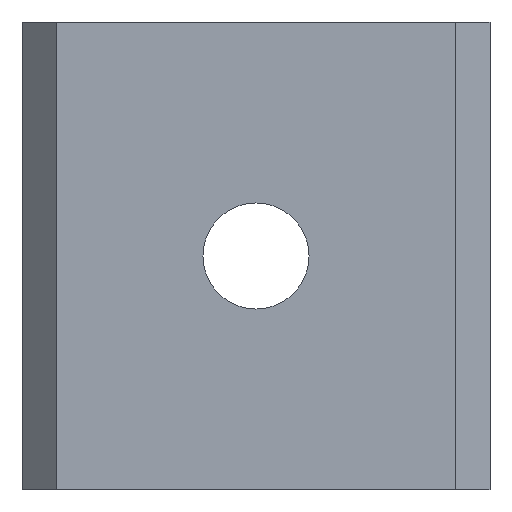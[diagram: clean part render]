
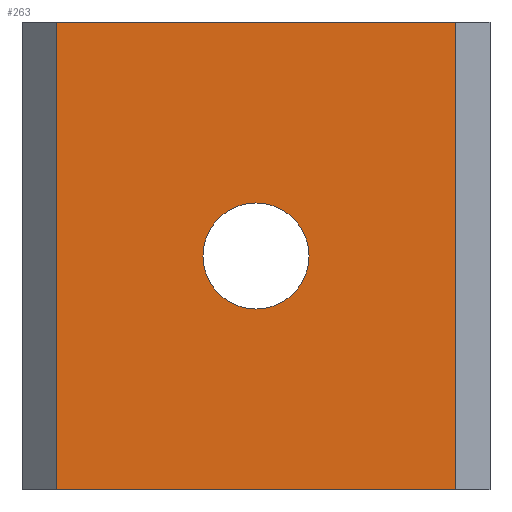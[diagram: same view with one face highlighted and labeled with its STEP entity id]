
A CAD part, left-side view. The second image highlights one B-rep face of the part: STEP entity #263.
In plain terms, the highlighted planar face has unit normal (-1, 0, 0).
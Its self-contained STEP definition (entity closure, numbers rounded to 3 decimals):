
#3 = VERTEX_POINT ( 'NONE', #101 ) ;
#17 = EDGE_LOOP ( 'NONE', ( #500, #149 ) ) ;
#34 = EDGE_LOOP ( 'NONE', ( #118, #685, #731, #701 ) ) ;
#38 = CIRCLE ( 'NONE', #564, 3.4 ) ;
#64 = VECTOR ( 'NONE', #727, 1000. ) ;
#101 = CARTESIAN_POINT ( 'NONE',  ( -11.5, 0., 18.4 ) ) ;
#111 = CARTESIAN_POINT ( 'NONE',  ( -11.5, 0., 15. ) ) ;
#112 = CARTESIAN_POINT ( 'NONE',  ( -11.5, 12.8, 30. ) ) ;
#118 = ORIENTED_EDGE ( 'NONE', *, *, #725, .T. ) ;
#124 = DIRECTION ( 'NONE',  ( 0., 1., 0. ) ) ;
#126 = EDGE_CURVE ( 'NONE', #786, #510, #811, .T. ) ;
#149 = ORIENTED_EDGE ( 'NONE', *, *, #612, .T. ) ;
#163 = VECTOR ( 'NONE', #632, 1000. ) ;
#176 = VECTOR ( 'NONE', #513, 1000. ) ;
#189 = EDGE_CURVE ( 'NONE', #510, #558, #245, .T. ) ;
#199 = DIRECTION ( 'NONE',  ( 1., 0., 0. ) ) ;
#201 = CARTESIAN_POINT ( 'NONE',  ( -11.5, 0., 15. ) ) ;
#243 = EDGE_CURVE ( 'NONE', #277, #3, #671, .T. ) ;
#245 = LINE ( 'NONE', #507, #780 ) ;
#258 = DIRECTION ( 'NONE',  ( 0., 0., -1. ) ) ;
#263 = ADVANCED_FACE ( 'NONE', ( #433, #404 ), #842, .F. ) ;
#277 = VERTEX_POINT ( 'NONE', #585 ) ;
#280 = LINE ( 'NONE', #611, #64 ) ;
#378 = AXIS2_PLACEMENT_3D ( 'NONE', #647, #199, #124 ) ;
#404 = FACE_OUTER_BOUND ( 'NONE', #34, .T. ) ;
#433 = FACE_BOUND ( 'NONE', #17, .T. ) ;
#452 = DIRECTION ( 'NONE',  ( 1., 0., 0. ) ) ;
#500 = ORIENTED_EDGE ( 'NONE', *, *, #243, .T. ) ;
#507 = CARTESIAN_POINT ( 'NONE',  ( -11.5, -12.8, 30. ) ) ;
#509 = CARTESIAN_POINT ( 'NONE',  ( -11.5, 12.8, 0. ) ) ;
#510 = VERTEX_POINT ( 'NONE', #546 ) ;
#513 = DIRECTION ( 'NONE',  ( 0., -1., 0. ) ) ;
#538 = LINE ( 'NONE', #768, #176 ) ;
#546 = CARTESIAN_POINT ( 'NONE',  ( -11.5, -12.8, 30. ) ) ;
#558 = VERTEX_POINT ( 'NONE', #736 ) ;
#564 = AXIS2_PLACEMENT_3D ( 'NONE', #111, #812, #757 ) ;
#579 = DIRECTION ( 'NONE',  ( 0., 0., -1. ) ) ;
#585 = CARTESIAN_POINT ( 'NONE',  ( -11.5, 0., 11.6 ) ) ;
#604 = AXIS2_PLACEMENT_3D ( 'NONE', #201, #452, #579 ) ;
#611 = CARTESIAN_POINT ( 'NONE',  ( -11.5, 12.8, 30. ) ) ;
#612 = EDGE_CURVE ( 'NONE', #3, #277, #38, .T. ) ;
#615 = EDGE_CURVE ( 'NONE', #786, #788, #280, .T. ) ;
#632 = DIRECTION ( 'NONE',  ( 0., -1., 0. ) ) ;
#647 = CARTESIAN_POINT ( 'NONE',  ( -11.5, 12.8, 30. ) ) ;
#671 = CIRCLE ( 'NONE', #604, 3.4 ) ;
#685 = ORIENTED_EDGE ( 'NONE', *, *, #189, .F. ) ;
#701 = ORIENTED_EDGE ( 'NONE', *, *, #615, .T. ) ;
#725 = EDGE_CURVE ( 'NONE', #788, #558, #538, .T. ) ;
#727 = DIRECTION ( 'NONE',  ( 0., 0., -1. ) ) ;
#731 = ORIENTED_EDGE ( 'NONE', *, *, #126, .F. ) ;
#736 = CARTESIAN_POINT ( 'NONE',  ( -11.5, -12.8, 0. ) ) ;
#757 = DIRECTION ( 'NONE',  ( 0., 0., -1. ) ) ;
#768 = CARTESIAN_POINT ( 'NONE',  ( -11.5, 12.8, 0. ) ) ;
#780 = VECTOR ( 'NONE', #258, 1000. ) ;
#786 = VERTEX_POINT ( 'NONE', #839 ) ;
#788 = VERTEX_POINT ( 'NONE', #509 ) ;
#811 = LINE ( 'NONE', #112, #163 ) ;
#812 = DIRECTION ( 'NONE',  ( 1., 0., 0. ) ) ;
#839 = CARTESIAN_POINT ( 'NONE',  ( -11.5, 12.8, 30. ) ) ;
#842 = PLANE ( 'NONE',  #378 ) ;
